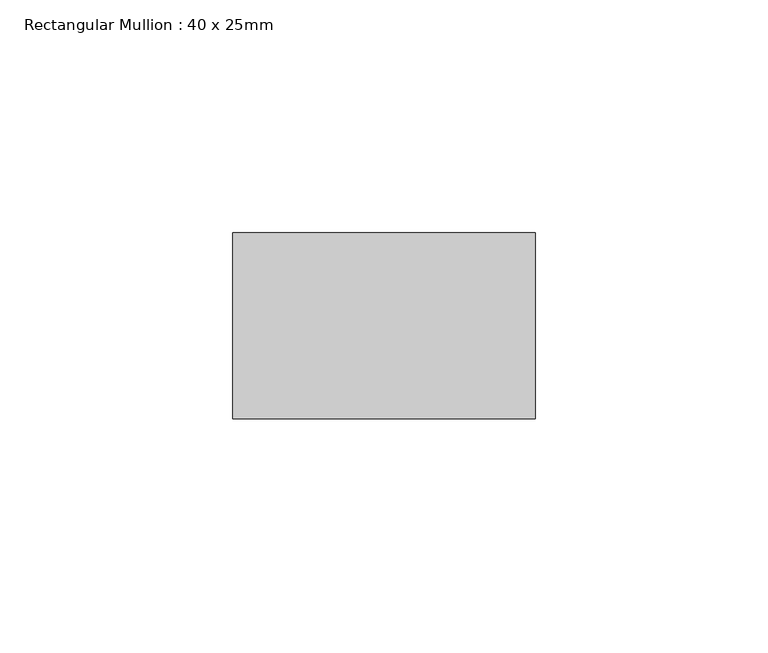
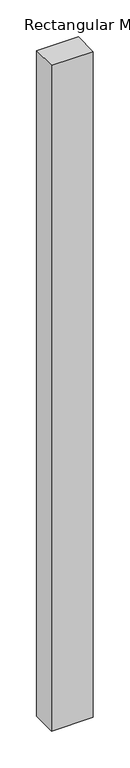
"""IFC4 building model written with IfcOpenShell, lengths in millimetres: member geometry, Rectangular Mullion : 40 x 25mm."""

from ifc_helpers import new_model, si_unit, frame, origin, place, context, project, spatial, polyline, outline, extrude, source, transform, mapped, element, save


def rectangular_mullion_40_x_25mm_e209bc13(model_context):
    return source(origin(), model_context, "Body", "SweptSolid", [
        extrude(outline(polyline([(0.0, -20.0), (0.0, -60.0), (-65.0, -60.0), (-65.0, -20.0), (0.0, -20.0)])), frame((0.0, 0.0, -1100.0), z_axis=(0.0, 0.0, 1.0), x_axis=(1.0, 0.0, 0.0)), (0.0, 0.0, 1.0), 1100.0),
    ])


if __name__ == "__main__":
    model = new_model("IFC4")
    model_context = context("Model", 3, world=origin())
    ifc_project = project(units=[si_unit("LENGTHUNIT", "METRE", prefix="MILLI")], contexts=[model_context])
    site = spatial("IfcSite", under=ifc_project)
    building = spatial("IfcBuilding", under=site)
    placement = place(None, origin())
    rectangular_mullion_40_x_25mm_shape = rectangular_mullion_40_x_25mm_e209bc13(model_context)
    element("IfcMember", 1, ObjectType="Rectangular Mullion : 40 x 25mm", at=placement, inside=building, context=model_context, shape_type="MappedRepresentation", body=[
        mapped(rectangular_mullion_40_x_25mm_shape, transform((0.0, 0.0, 0.0), x_axis=(1.0, 0.0, 0.0), y_axis=(0.0, 1.0, 0.0), z_axis=(0.0, 0.0, 1.0))),
    ])
    save(model, "model.ifc")
